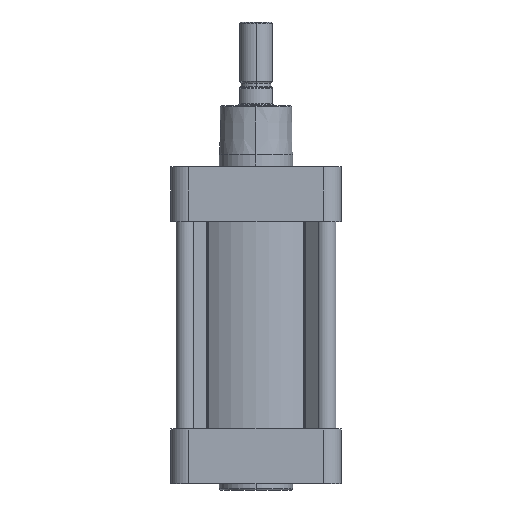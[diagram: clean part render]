
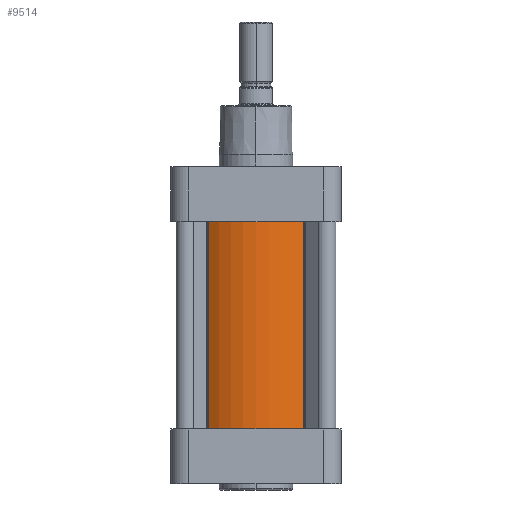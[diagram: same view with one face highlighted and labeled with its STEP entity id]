
A CAD part, left-side view. The second image highlights one B-rep face of the part: STEP entity #9514.
In plain terms, the highlighted cylindrical face has radius 65 mm (diameter 130 mm), a partial arc.
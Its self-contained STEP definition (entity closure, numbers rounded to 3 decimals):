
#266 = LINE ( 'NONE', #6418, #4291 ) ;
#478 = ORIENTED_EDGE ( 'NONE', *, *, #8558, .F. ) ;
#590 = ORIENTED_EDGE ( 'NONE', *, *, #1245, .T. ) ;
#756 = AXIS2_PLACEMENT_3D ( 'NONE', #6421, #1946, #7146 ) ;
#1025 = CARTESIAN_POINT ( 'NONE',  ( -52.204, 38.726, -170. ) ) ;
#1049 = DIRECTION ( 'NONE',  ( 0., 0., -1. ) ) ;
#1245 = EDGE_CURVE ( 'NONE', #1677, #8110, #266, .T. ) ;
#1290 = VERTEX_POINT ( 'NONE', #5725 ) ;
#1366 = LINE ( 'NONE', #6949, #9073 ) ;
#1677 = VERTEX_POINT ( 'NONE', #8427 ) ;
#1820 = AXIS2_PLACEMENT_3D ( 'NONE', #2083, #2829, #6558 ) ;
#1937 = DIRECTION ( 'NONE',  ( 0., 0., -1. ) ) ;
#1946 = DIRECTION ( 'NONE',  ( 0., 0., 1. ) ) ;
#2083 = CARTESIAN_POINT ( 'NONE',  ( 0., 0., 0. ) ) ;
#2110 = ORIENTED_EDGE ( 'NONE', *, *, #4681, .T. ) ;
#2399 = AXIS2_PLACEMENT_3D ( 'NONE', #8274, #3854, #9024 ) ;
#2829 = DIRECTION ( 'NONE',  ( 0., 0., -1. ) ) ;
#3046 = ORIENTED_EDGE ( 'NONE', *, *, #7258, .F. ) ;
#3103 = CIRCLE ( 'NONE', #756, 65. ) ;
#3854 = DIRECTION ( 'NONE',  ( 0., 0., 1. ) ) ;
#4291 = VECTOR ( 'NONE', #1937, 1000. ) ;
#4304 = CIRCLE ( 'NONE', #2399, 65. ) ;
#4545 = CARTESIAN_POINT ( 'NONE',  ( -52.204, -38.726, -170. ) ) ;
#4681 = EDGE_CURVE ( 'NONE', #8110, #8344, #4304, .T. ) ;
#5725 = CARTESIAN_POINT ( 'NONE',  ( -52.204, -38.726, 0. ) ) ;
#5739 = EDGE_LOOP ( 'NONE', ( #2110, #478, #3046, #590 ) ) ;
#6418 = CARTESIAN_POINT ( 'NONE',  ( -52.204, 38.726, 0. ) ) ;
#6421 = CARTESIAN_POINT ( 'NONE',  ( 0., 0., 0. ) ) ;
#6558 = DIRECTION ( 'NONE',  ( 1., 0., 0. ) ) ;
#6847 = CYLINDRICAL_SURFACE ( 'NONE', #1820, 65. ) ;
#6949 = CARTESIAN_POINT ( 'NONE',  ( -52.204, -38.726, 0. ) ) ;
#7073 = FACE_OUTER_BOUND ( 'NONE', #5739, .T. ) ;
#7146 = DIRECTION ( 'NONE',  ( -1., 0., 0. ) ) ;
#7258 = EDGE_CURVE ( 'NONE', #1677, #1290, #3103, .T. ) ;
#8110 = VERTEX_POINT ( 'NONE', #1025 ) ;
#8274 = CARTESIAN_POINT ( 'NONE',  ( 0., 0., -170. ) ) ;
#8344 = VERTEX_POINT ( 'NONE', #4545 ) ;
#8427 = CARTESIAN_POINT ( 'NONE',  ( -52.204, 38.726, 0. ) ) ;
#8558 = EDGE_CURVE ( 'NONE', #1290, #8344, #1366, .T. ) ;
#9024 = DIRECTION ( 'NONE',  ( -1., 0., 0. ) ) ;
#9073 = VECTOR ( 'NONE', #1049, 1000. ) ;
#9514 = ADVANCED_FACE ( 'NONE', ( #7073 ), #6847, .T. ) ;
